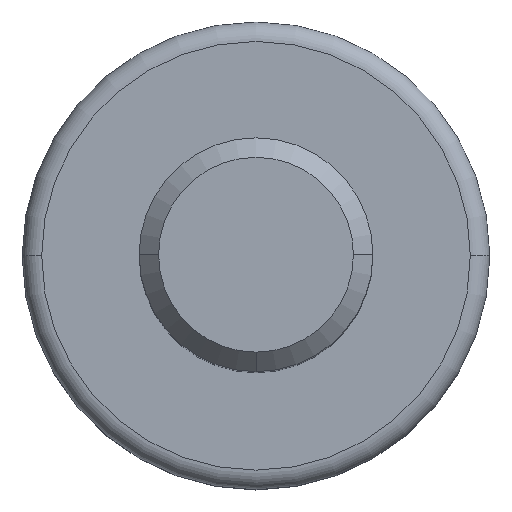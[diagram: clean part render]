
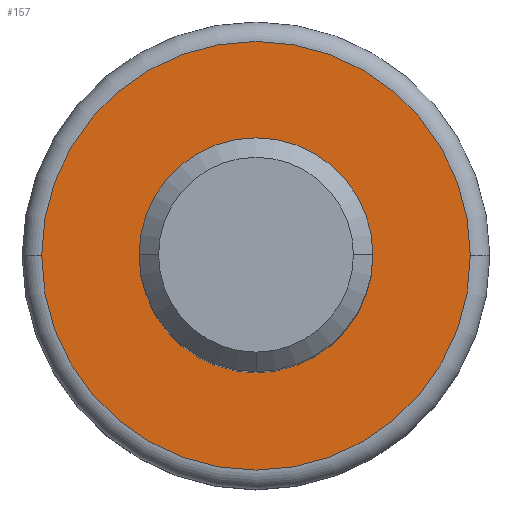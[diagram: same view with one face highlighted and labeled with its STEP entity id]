
A CAD part, top view. The second image highlights one B-rep face of the part: STEP entity #157.
In plain terms, the highlighted planar face has unit normal (0, 0, 1).
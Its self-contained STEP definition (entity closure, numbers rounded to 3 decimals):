
#15 = CIRCLE ( 'NONE', #255, 1.5 ) ;
#37 = ORIENTED_EDGE ( 'NONE', *, *, #110, .F. ) ;
#67 = DIRECTION ( 'NONE',  ( 0., 0., 1. ) ) ;
#92 = ORIENTED_EDGE ( 'NONE', *, *, #632, .T. ) ;
#99 = ORIENTED_EDGE ( 'NONE', *, *, #159, .T. ) ;
#100 = VERTEX_POINT ( 'NONE', #122 ) ;
#110 = EDGE_CURVE ( 'NONE', #401, #124, #331, .T. ) ;
#118 = DIRECTION ( 'NONE',  ( 0., 0., -1. ) ) ;
#122 = CARTESIAN_POINT ( 'NONE',  ( 2.75, 0., -8. ) ) ;
#124 = VERTEX_POINT ( 'NONE', #177 ) ;
#126 = PLANE ( 'NONE',  #384 ) ;
#129 = AXIS2_PLACEMENT_3D ( 'NONE', #575, #67, #156 ) ;
#156 = DIRECTION ( 'NONE',  ( -1., 0., 0. ) ) ;
#157 = ADVANCED_FACE ( 'NONE', ( #282, #489 ), #126, .T. ) ;
#159 = EDGE_CURVE ( 'NONE', #593, #100, #286, .T. ) ;
#161 = DIRECTION ( 'NONE',  ( 1., 0., 0. ) ) ;
#177 = CARTESIAN_POINT ( 'NONE',  ( 1.5, 0., -8. ) ) ;
#197 = EDGE_LOOP ( 'NONE', ( #647, #37 ) ) ;
#246 = CARTESIAN_POINT ( 'NONE',  ( -2.75, 0., -8. ) ) ;
#255 = AXIS2_PLACEMENT_3D ( 'NONE', #434, #118, #330 ) ;
#259 = EDGE_CURVE ( 'NONE', #401, #124, #15, .T. ) ;
#261 = CARTESIAN_POINT ( 'NONE',  ( 0., 0., -8. ) ) ;
#263 = DIRECTION ( 'NONE',  ( 0., 0., 1. ) ) ;
#282 = FACE_BOUND ( 'NONE', #197, .T. ) ;
#286 = CIRCLE ( 'NONE', #129, 2.75 ) ;
#287 = EDGE_LOOP ( 'NONE', ( #99, #92 ) ) ;
#330 = DIRECTION ( 'NONE',  ( -1., 0., 0. ) ) ;
#331 = CIRCLE ( 'NONE', #574, 1.5 ) ;
#384 = AXIS2_PLACEMENT_3D ( 'NONE', #454, #418, #520 ) ;
#391 = CARTESIAN_POINT ( 'NONE',  ( -1.5, 0., -8. ) ) ;
#401 = VERTEX_POINT ( 'NONE', #391 ) ;
#417 = CIRCLE ( 'NONE', #557, 2.75 ) ;
#418 = DIRECTION ( 'NONE',  ( 0., 0., 1. ) ) ;
#427 = DIRECTION ( 'NONE',  ( -1., 0., 0. ) ) ;
#434 = CARTESIAN_POINT ( 'NONE',  ( 0., 0., -8. ) ) ;
#435 = CARTESIAN_POINT ( 'NONE',  ( 0., 0., -8. ) ) ;
#454 = CARTESIAN_POINT ( 'NONE',  ( 0., 0., -8. ) ) ;
#478 = DIRECTION ( 'NONE',  ( 0., 0., 1. ) ) ;
#489 = FACE_OUTER_BOUND ( 'NONE', #287, .T. ) ;
#520 = DIRECTION ( 'NONE',  ( 1., 0., 0. ) ) ;
#557 = AXIS2_PLACEMENT_3D ( 'NONE', #261, #263, #161 ) ;
#574 = AXIS2_PLACEMENT_3D ( 'NONE', #435, #478, #427 ) ;
#575 = CARTESIAN_POINT ( 'NONE',  ( 0., 0., -8. ) ) ;
#593 = VERTEX_POINT ( 'NONE', #246 ) ;
#632 = EDGE_CURVE ( 'NONE', #100, #593, #417, .T. ) ;
#647 = ORIENTED_EDGE ( 'NONE', *, *, #259, .T. ) ;
